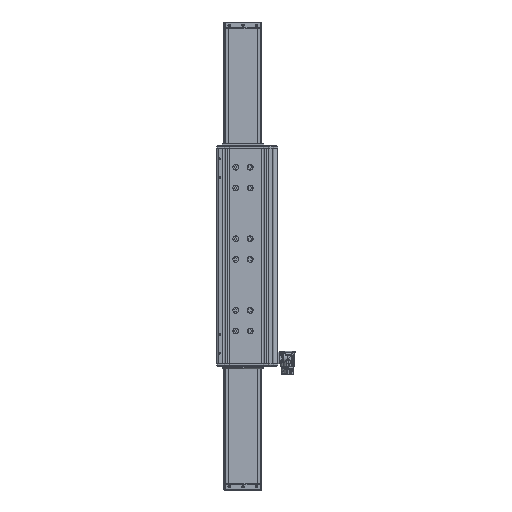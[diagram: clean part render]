
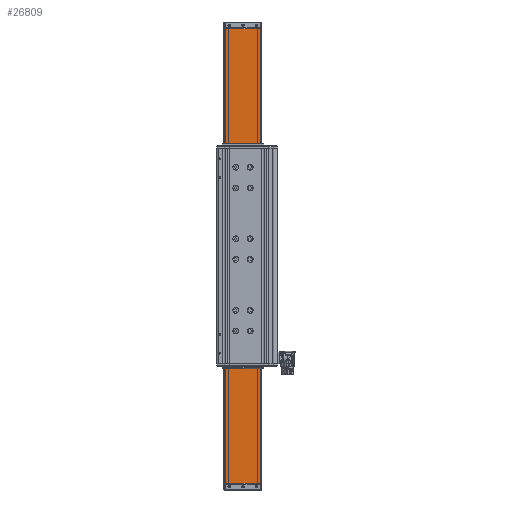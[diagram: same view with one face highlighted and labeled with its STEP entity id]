
A CAD part, front view. The second image highlights one B-rep face of the part: STEP entity #26809.
In plain terms, the highlighted planar face has unit normal (0, -1, 0) as drawn and (0, 1, 0) by its records, which use the part's own axes.
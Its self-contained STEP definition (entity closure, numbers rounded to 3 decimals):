
#17178 = AXIS2_PLACEMENT_3D ( 'NONE', #61681, #61692, #61693 ) ;
#26809 = ADVANCED_FACE ( 'NONE', ( #139874 ), #61685, .T. ) ;
#27753 = ORIENTED_EDGE ( 'NONE', *, *, #201219, .T. ) ;
#27754 = ORIENTED_EDGE ( 'NONE', *, *, #201230, .T. ) ;
#27755 = ORIENTED_EDGE ( 'NONE', *, *, #201231, .T. ) ;
#27756 = ORIENTED_EDGE ( 'NONE', *, *, #201229, .T. ) ;
#61681 = CARTESIAN_POINT ( 'NONE',  ( -42., 26.152, 550. ) ) ;
#61685 = PLANE ( 'NONE',  #17178 ) ;
#61692 = DIRECTION ( 'NONE',  ( 0., 1., 0. ) ) ;
#61693 = DIRECTION ( 'NONE',  ( 0., 0., 1. ) ) ;
#70679 = EDGE_LOOP ( 'NONE', ( #27753, #27754, #27755, #27756 ) ) ;
#73773 = LINE ( 'NONE', #115228, #73776 ) ;
#73776 = VECTOR ( 'NONE', #115230, 1000. ) ;
#73832 = LINE ( 'NONE', #115278, #73835 ) ;
#73835 = VECTOR ( 'NONE', #115280, 1000. ) ;
#73839 = LINE ( 'NONE', #115283, #73842 ) ;
#73842 = VECTOR ( 'NONE', #115285, 1000. ) ;
#73845 = LINE ( 'NONE', #115288, #73847 ) ;
#73847 = VECTOR ( 'NONE', #115290, 1000. ) ;
#89366 = CARTESIAN_POINT ( 'NONE',  ( -42., 26.152, 550. ) ) ;
#89369 = CARTESIAN_POINT ( 'NONE',  ( -42., 26.152, -550. ) ) ;
#89375 = CARTESIAN_POINT ( 'NONE',  ( 42., 26.152, 550. ) ) ;
#89381 = CARTESIAN_POINT ( 'NONE',  ( 42., 26.152, -550. ) ) ;
#115228 = CARTESIAN_POINT ( 'NONE',  ( -42., 26.152, -550. ) ) ;
#115230 = DIRECTION ( 'NONE',  ( 0., 0., 1. ) ) ;
#115278 = CARTESIAN_POINT ( 'NONE',  ( -42., 26.152, -550. ) ) ;
#115280 = DIRECTION ( 'NONE',  ( -1., 0., 0. ) ) ;
#115283 = CARTESIAN_POINT ( 'NONE',  ( -42., 26.152, 550. ) ) ;
#115285 = DIRECTION ( 'NONE',  ( 1., 0., 0. ) ) ;
#115288 = CARTESIAN_POINT ( 'NONE',  ( 42., 26.152, -550. ) ) ;
#115290 = DIRECTION ( 'NONE',  ( 0., 0., -1. ) ) ;
#139874 = FACE_OUTER_BOUND ( 'NONE', #70679, .T. ) ;
#196813 = VERTEX_POINT ( 'NONE', #89366 ) ;
#196814 = VERTEX_POINT ( 'NONE', #89369 ) ;
#196816 = VERTEX_POINT ( 'NONE', #89375 ) ;
#196818 = VERTEX_POINT ( 'NONE', #89381 ) ;
#201219 = EDGE_CURVE ( 'NONE', #196814, #196813, #73773, .T. ) ;
#201229 = EDGE_CURVE ( 'NONE', #196818, #196814, #73832, .T. ) ;
#201230 = EDGE_CURVE ( 'NONE', #196813, #196816, #73839, .T. ) ;
#201231 = EDGE_CURVE ( 'NONE', #196816, #196818, #73845, .T. ) ;
